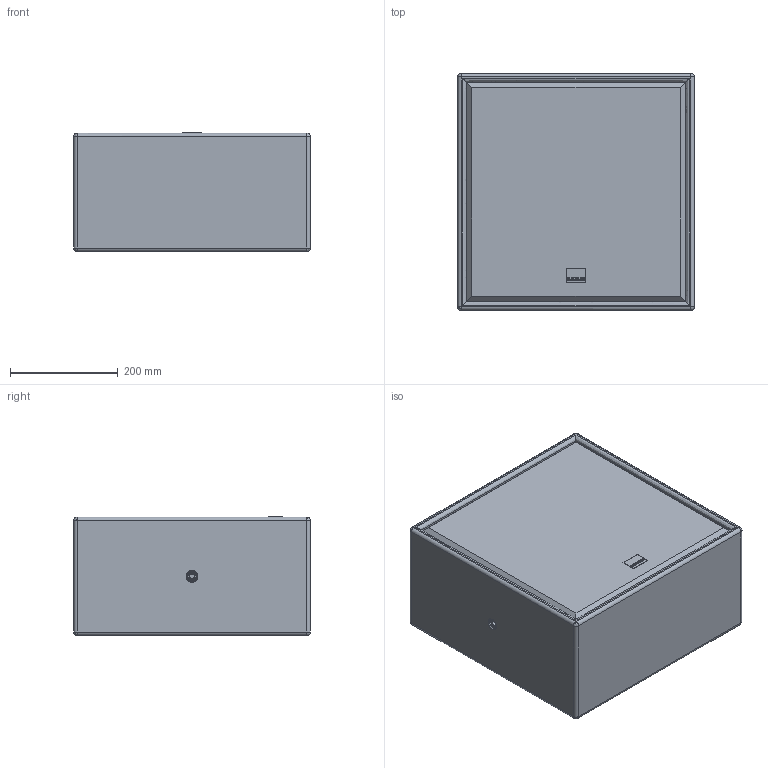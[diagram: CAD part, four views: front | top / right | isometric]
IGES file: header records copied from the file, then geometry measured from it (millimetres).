
Start section: SolidWorks IGES file using analytic representation for surfaces
Global section: file name: C:\Dokumente und Einstellungen\PC_Fabian\Desktop\F-Serie\Seeburg_CXT810.IGS; native system: SolidWorks 2009; preprocessor: SolidWorks 2009; author: PC_Fabian; date: 121015.144658; units: millimetre
Bounding box: 440 x 440 x 221.11 mm (x, y, z)
Surface area: 1468053.8 mm2 (no closed solid volume)
Topology: 0 solids, 0 shells, 392 faces, 4122 edges, 4118 vertices
Faces by surface type: revolution 202, bspline 190
